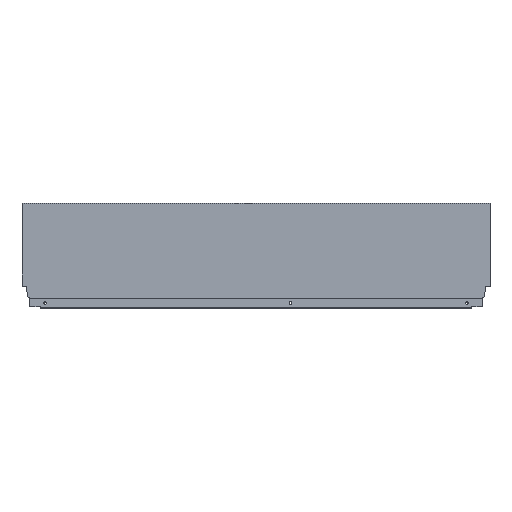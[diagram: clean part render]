
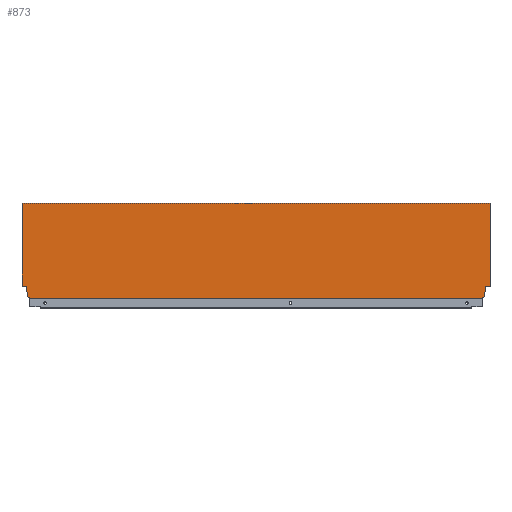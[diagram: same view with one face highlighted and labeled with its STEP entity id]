
A CAD part, top view. The second image highlights one B-rep face of the part: STEP entity #873.
In plain terms, the highlighted planar face has unit normal (0, 0, 1).
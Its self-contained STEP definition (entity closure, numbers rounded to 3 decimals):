
#50 = EDGE_CURVE ( 'NONE', #1237, #1223, #607, .T. ) ;
#52 = EDGE_CURVE ( 'NONE', #1190, #1225, #605, .T. ) ;
#54 = EDGE_CURVE ( 'NONE', #1220, #1228, #612, .T. ) ;
#56 = EDGE_CURVE ( 'NONE', #1239, #1221, #621, .T. ) ;
#58 = EDGE_CURVE ( 'NONE', #1215, #1218, #618, .T. ) ;
#59 = EDGE_CURVE ( 'NONE', #1237, #1220, #624, .T. ) ;
#60 = EDGE_CURVE ( 'NONE', #1216, #1215, #628, .T. ) ;
#62 = EDGE_CURVE ( 'NONE', #1226, #1216, #632, .T. ) ;
#63 = EDGE_CURVE ( 'NONE', #1225, #1221, #623, .T. ) ;
#64 = EDGE_CURVE ( 'NONE', #1239, #1212, #627, .T. ) ;
#65 = EDGE_CURVE ( 'NONE', #1228, #1190, #631, .T. ) ;
#67 = EDGE_CURVE ( 'NONE', #1234, #1223, #635, .T. ) ;
#69 = EDGE_CURVE ( 'NONE', #1218, #1234, #637, .T. ) ;
#71 = EDGE_CURVE ( 'NONE', #1212, #1226, #643, .T. ) ;
#215 = AXIS2_PLACEMENT_3D ( 'NONE', #1363, #1350, #1349 ) ;
#469 = ORIENTED_EDGE ( 'NONE', *, *, #64, .F. ) ;
#470 = ORIENTED_EDGE ( 'NONE', *, *, #71, .F. ) ;
#471 = ORIENTED_EDGE ( 'NONE', *, *, #62, .F. ) ;
#472 = ORIENTED_EDGE ( 'NONE', *, *, #60, .F. ) ;
#473 = ORIENTED_EDGE ( 'NONE', *, *, #58, .F. ) ;
#474 = ORIENTED_EDGE ( 'NONE', *, *, #69, .F. ) ;
#475 = ORIENTED_EDGE ( 'NONE', *, *, #67, .F. ) ;
#476 = ORIENTED_EDGE ( 'NONE', *, *, #50, .T. ) ;
#477 = ORIENTED_EDGE ( 'NONE', *, *, #59, .F. ) ;
#478 = ORIENTED_EDGE ( 'NONE', *, *, #54, .F. ) ;
#479 = ORIENTED_EDGE ( 'NONE', *, *, #65, .F. ) ;
#480 = ORIENTED_EDGE ( 'NONE', *, *, #52, .F. ) ;
#481 = ORIENTED_EDGE ( 'NONE', *, *, #63, .F. ) ;
#482 = ORIENTED_EDGE ( 'NONE', *, *, #56, .T. ) ;
#540 = EDGE_LOOP ( 'NONE', ( #482, #481, #480, #479, #478, #477, #476, #475, #474, #473, #472, #471, #470, #469 ) ) ;
#605 = LINE ( 'NONE', #880, #613 ) ;
#607 = LINE ( 'NONE', #889, #609 ) ;
#609 = VECTOR ( 'NONE', #881, 1000. ) ;
#612 = LINE ( 'NONE', #977, #617 ) ;
#613 = VECTOR ( 'NONE', #968, 1000. ) ;
#616 = VECTOR ( 'NONE', #969, 1000. ) ;
#617 = VECTOR ( 'NONE', #1147, 1000. ) ;
#618 = LINE ( 'NONE', #970, #616 ) ;
#621 = LINE ( 'NONE', #1089, #622 ) ;
#622 = VECTOR ( 'NONE', #1183, 1000. ) ;
#623 = LINE ( 'NONE', #986, #634 ) ;
#624 = LINE ( 'NONE', #978, #626 ) ;
#626 = VECTOR ( 'NONE', #988, 1000. ) ;
#627 = LINE ( 'NONE', #983, #636 ) ;
#628 = LINE ( 'NONE', #989, #629 ) ;
#629 = VECTOR ( 'NONE', #985, 1000. ) ;
#631 = LINE ( 'NONE', #990, #638 ) ;
#632 = LINE ( 'NONE', #981, #633 ) ;
#633 = VECTOR ( 'NONE', #982, 1000. ) ;
#634 = VECTOR ( 'NONE', #984, 1000. ) ;
#635 = LINE ( 'NONE', #1021, #642 ) ;
#636 = VECTOR ( 'NONE', #1022, 1000. ) ;
#637 = LINE ( 'NONE', #1019, #646 ) ;
#638 = VECTOR ( 'NONE', #1020, 1000. ) ;
#642 = VECTOR ( 'NONE', #1013, 1000. ) ;
#643 = LINE ( 'NONE', #1011, #650 ) ;
#646 = VECTOR ( 'NONE', #1010, 1000. ) ;
#650 = VECTOR ( 'NONE', #1008, 1000. ) ;
#845 = FACE_OUTER_BOUND ( 'NONE', #540, .T. ) ;
#873 = ADVANCED_FACE ( 'NONE', ( #845 ), #1355, .T. ) ;
#880 = CARTESIAN_POINT ( 'NONE',  ( -805.94, 21.2, 7.5 ) ) ;
#881 = DIRECTION ( 'NONE',  ( 1., 0., 0. ) ) ;
#889 = CARTESIAN_POINT ( 'NONE',  ( -813., 0., 7.5 ) ) ;
#968 = DIRECTION ( 'NONE',  ( -0.174, 0.985, 0. ) ) ;
#969 = DIRECTION ( 'NONE',  ( 0., -1., 0. ) ) ;
#970 = CARTESIAN_POINT ( 'NONE',  ( -8.9, 10.765, 7.5 ) ) ;
#977 = CARTESIAN_POINT ( 'NONE',  ( -804.1, 2.64, 7.5 ) ) ;
#978 = CARTESIAN_POINT ( 'NONE',  ( -799.996, 1.146, 7.5 ) ) ;
#981 = CARTESIAN_POINT ( 'NONE',  ( 0., 21.2, 7.5 ) ) ;
#982 = DIRECTION ( 'NONE',  ( -1., 0., 0. ) ) ;
#983 = CARTESIAN_POINT ( 'NONE',  ( -813., 164.7, 7.5 ) ) ;
#984 = DIRECTION ( 'NONE',  ( -1., 0., 0. ) ) ;
#985 = DIRECTION ( 'NONE',  ( -0.174, -0.985, 0. ) ) ;
#986 = CARTESIAN_POINT ( 'NONE',  ( -818., 21.2, 7.5 ) ) ;
#988 = DIRECTION ( 'NONE',  ( 0., 1., 0. ) ) ;
#989 = CARTESIAN_POINT ( 'NONE',  ( -7.06, 21.2, 7.5 ) ) ;
#990 = CARTESIAN_POINT ( 'NONE',  ( -804.1, 10.765, 7.5 ) ) ;
#1008 = DIRECTION ( 'NONE',  ( 0., -1., 0. ) ) ;
#1010 = DIRECTION ( 'NONE',  ( -0.94, -0.342, 0. ) ) ;
#1011 = CARTESIAN_POINT ( 'NONE',  ( 0., 0., 7.5 ) ) ;
#1013 = DIRECTION ( 'NONE',  ( 0., -1., 0. ) ) ;
#1019 = CARTESIAN_POINT ( 'NONE',  ( -8.9, 2.64, 7.5 ) ) ;
#1020 = DIRECTION ( 'NONE',  ( 0., 1., 0. ) ) ;
#1021 = CARTESIAN_POINT ( 'NONE',  ( -13.004, 1.146, 7.5 ) ) ;
#1022 = DIRECTION ( 'NONE',  ( 1., 0., 0. ) ) ;
#1089 = CARTESIAN_POINT ( 'NONE',  ( -813., 0., 7.5 ) ) ;
#1147 = DIRECTION ( 'NONE',  ( -0.94, 0.342, 0. ) ) ;
#1183 = DIRECTION ( 'NONE',  ( 0., -1., 0. ) ) ;
#1190 = VERTEX_POINT ( 'NONE', #1479 ) ;
#1212 = VERTEX_POINT ( 'NONE', #1467 ) ;
#1215 = VERTEX_POINT ( 'NONE', #1464 ) ;
#1216 = VERTEX_POINT ( 'NONE', #1463 ) ;
#1218 = VERTEX_POINT ( 'NONE', #1461 ) ;
#1220 = VERTEX_POINT ( 'NONE', #1459 ) ;
#1221 = VERTEX_POINT ( 'NONE', #1458 ) ;
#1223 = VERTEX_POINT ( 'NONE', #1456 ) ;
#1225 = VERTEX_POINT ( 'NONE', #1454 ) ;
#1226 = VERTEX_POINT ( 'NONE', #1453 ) ;
#1228 = VERTEX_POINT ( 'NONE', #1451 ) ;
#1234 = VERTEX_POINT ( 'NONE', #1445 ) ;
#1237 = VERTEX_POINT ( 'NONE', #1442 ) ;
#1239 = VERTEX_POINT ( 'NONE', #1440 ) ;
#1349 = DIRECTION ( 'NONE',  ( 1., 0., 0. ) ) ;
#1350 = DIRECTION ( 'NONE',  ( 0., 0., 1. ) ) ;
#1355 = PLANE ( 'NONE',  #215 ) ;
#1363 = CARTESIAN_POINT ( 'NONE',  ( -813., 0., 7.5 ) ) ;
#1440 = CARTESIAN_POINT ( 'NONE',  ( -813., 164.7, 7.5 ) ) ;
#1442 = CARTESIAN_POINT ( 'NONE',  ( -799.996, 0., 7.5 ) ) ;
#1445 = CARTESIAN_POINT ( 'NONE',  ( -13.004, 1.146, 7.5 ) ) ;
#1451 = CARTESIAN_POINT ( 'NONE',  ( -804.1, 2.64, 7.5 ) ) ;
#1453 = CARTESIAN_POINT ( 'NONE',  ( 0., 21.2, 7.5 ) ) ;
#1454 = CARTESIAN_POINT ( 'NONE',  ( -805.94, 21.2, 7.5 ) ) ;
#1456 = CARTESIAN_POINT ( 'NONE',  ( -13.004, 0., 7.5 ) ) ;
#1458 = CARTESIAN_POINT ( 'NONE',  ( -813., 21.2, 7.5 ) ) ;
#1459 = CARTESIAN_POINT ( 'NONE',  ( -799.996, 1.146, 7.5 ) ) ;
#1461 = CARTESIAN_POINT ( 'NONE',  ( -8.9, 2.64, 7.5 ) ) ;
#1463 = CARTESIAN_POINT ( 'NONE',  ( -7.06, 21.2, 7.5 ) ) ;
#1464 = CARTESIAN_POINT ( 'NONE',  ( -8.9, 10.765, 7.5 ) ) ;
#1467 = CARTESIAN_POINT ( 'NONE',  ( 0., 164.7, 7.5 ) ) ;
#1479 = CARTESIAN_POINT ( 'NONE',  ( -804.1, 10.765, 7.5 ) ) ;
